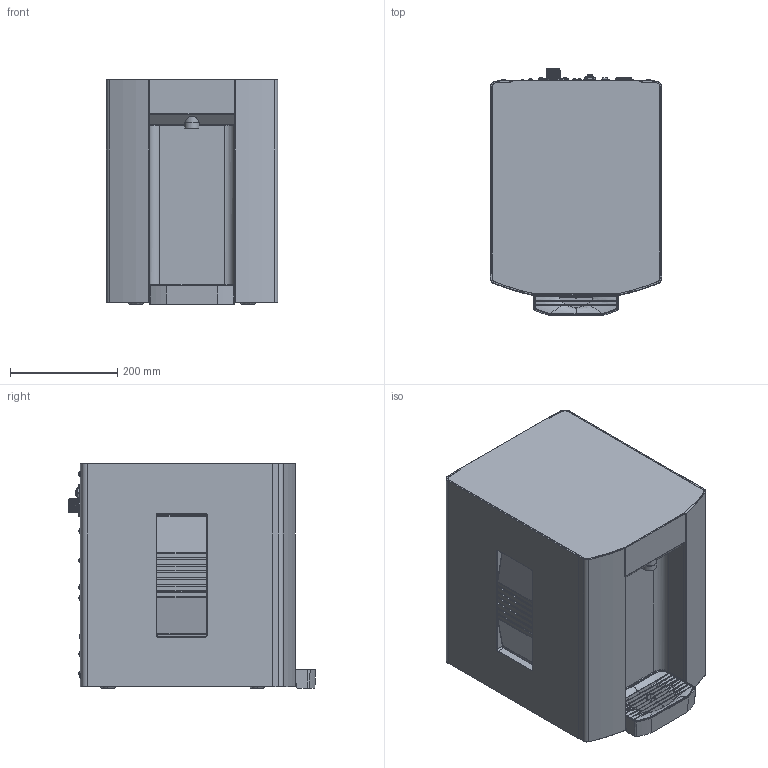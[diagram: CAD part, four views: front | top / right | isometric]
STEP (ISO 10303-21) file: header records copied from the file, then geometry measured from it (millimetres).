
FILE_DESCRIPTION (( 'STEP AP203' ), '1' );
FILE_NAME ('B6 Website.STEP', '2022-12-05T17:12:42', ( '' ), ( '' ), 'SwSTEP 2.0', 'SolidWorks 2021', '' );
FILE_SCHEMA (( 'CONFIG_CONTROL_DESIGN' ));
Products named in the file (1): B6 Website
Bounding box: 320.14 x 461.87 x 420.05 mm (x, y, z)
Surface area: 1853820.1 mm2 (no closed solid volume)
Topology: 0 solids, 150 shells, 1854 faces, 9067 edges, 7208 vertices
Faces by surface type: plane 802, cylinder 570, bspline 308, cone 170, torus 4
Entity records: 144421 total; most frequent: CARTESIAN_POINT 79387, ORIENTED_EDGE 12769, DIRECTION 11144, EDGE_CURVE 9041, VERTEX_POINT 7208, LINE 4314, VECTOR 4314, AXIS2_PLACEMENT_3D 3415
